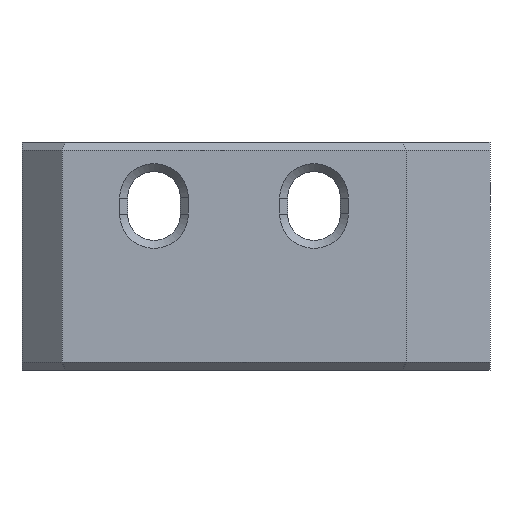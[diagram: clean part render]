
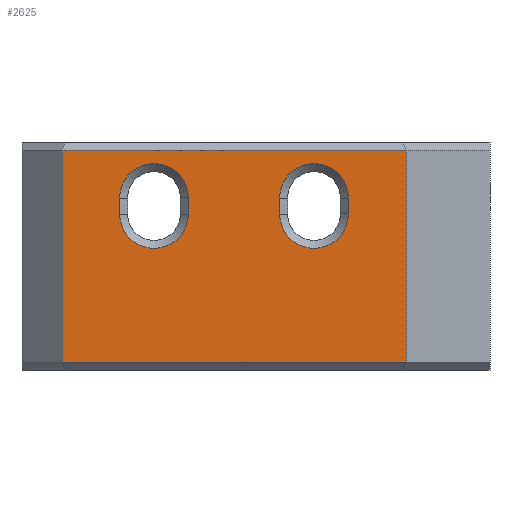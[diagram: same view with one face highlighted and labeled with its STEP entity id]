
A CAD part, front view. The second image highlights one B-rep face of the part: STEP entity #2625.
In plain terms, the highlighted planar face has unit normal (0, -1, 0).
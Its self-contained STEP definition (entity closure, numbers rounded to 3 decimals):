
#1994=CARTESIAN_POINT('Vertex',(-14.3,-10.,6.)) ;
#2001=CARTESIAN_POINT('Vertex',(-14.3,-10.,8.)) ;
#2004=CARTESIAN_POINT('Line Origine',(-14.3,-10.,0.75)) ;
#2025=CARTESIAN_POINT('Vertex',(-5.7,-10.,8.)) ;
#2028=CARTESIAN_POINT('Axis2P3D Location',(-10.,-10.,8.)) ;
#2049=CARTESIAN_POINT('Vertex',(-5.7,-10.,6.)) ;
#2052=CARTESIAN_POINT('Line Origine',(-5.7,-10.,-5.6)) ;
#2069=CARTESIAN_POINT('Axis2P3D Location',(-10.,-10.,6.)) ;
#2186=CARTESIAN_POINT('Vertex',(5.7,-10.,8.)) ;
#2189=CARTESIAN_POINT('Line Origine',(5.7,-10.,0.75)) ;
#2193=CARTESIAN_POINT('Vertex',(5.7,-10.,6.)) ;
#2213=CARTESIAN_POINT('Axis2P3D Location',(10.,-10.,6.)) ;
#2217=CARTESIAN_POINT('Vertex',(14.3,-10.,6.)) ;
#2237=CARTESIAN_POINT('Line Origine',(14.3,-10.,0.75)) ;
#2241=CARTESIAN_POINT('Vertex',(14.3,-10.,8.)) ;
#2261=CARTESIAN_POINT('Axis2P3D Location',(10.,-10.,8.)) ;
#2343=CARTESIAN_POINT('Vertex',(21.5,-10.,14.)) ;
#2369=CARTESIAN_POINT('Line Origine',(2.75,-10.,14.)) ;
#2373=CARTESIAN_POINT('Vertex',(-21.5,-10.,14.)) ;
#2522=CARTESIAN_POINT('Vertex',(21.5,-10.,-12.5)) ;
#2525=CARTESIAN_POINT('Line Origine',(21.5,-10.,0.75)) ;
#2542=CARTESIAN_POINT('Line Origine',(-21.5,-10.,0.75)) ;
#2546=CARTESIAN_POINT('Vertex',(-21.5,-10.,-12.5)) ;
#2597=CARTESIAN_POINT('Axis2P3D Location',(0.,-10.,15.)) ;
#2602=CARTESIAN_POINT('Line Origine',(0.,-10.,-12.5)) ;
#2005=DIRECTION('Vector Direction',(0.,0.,-1.)) ;
#2029=DIRECTION('Axis2P3D Direction',(0.,-1.,0.)) ;
#2053=DIRECTION('Vector Direction',(0.,0.,1.)) ;
#2070=DIRECTION('Axis2P3D Direction',(0.,-1.,0.)) ;
#2190=DIRECTION('Vector Direction',(0.,0.,1.)) ;
#2214=DIRECTION('Axis2P3D Direction',(0.,-1.,0.)) ;
#2238=DIRECTION('Vector Direction',(0.,0.,-1.)) ;
#2262=DIRECTION('Axis2P3D Direction',(0.,-1.,0.)) ;
#2370=DIRECTION('Vector Direction',(1.,0.,0.)) ;
#2526=DIRECTION('Vector Direction',(0.,0.,-1.)) ;
#2543=DIRECTION('Vector Direction',(0.,0.,-1.)) ;
#2598=DIRECTION('Axis2P3D Direction',(0.,-1.,0.)) ;
#2599=DIRECTION('Axis2P3D XDirection',(0.,0.,-1.)) ;
#2603=DIRECTION('Vector Direction',(-1.,0.,0.)) ;
#2030=AXIS2_PLACEMENT_3D('Circle Axis2P3D',#2028,#2029,$) ;
#2071=AXIS2_PLACEMENT_3D('Circle Axis2P3D',#2069,#2070,$) ;
#2215=AXIS2_PLACEMENT_3D('Circle Axis2P3D',#2213,#2214,$) ;
#2263=AXIS2_PLACEMENT_3D('Circle Axis2P3D',#2261,#2262,$) ;
#2600=AXIS2_PLACEMENT_3D('Plane Axis2P3D',#2597,#2598,#2599) ;
#2608=ORIENTED_EDGE('',*,*,#2529,.F.) ;
#2609=ORIENTED_EDGE('',*,*,#2375,.T.) ;
#2610=ORIENTED_EDGE('',*,*,#2548,.T.) ;
#2611=ORIENTED_EDGE('',*,*,#2606,.T.) ;
#2614=ORIENTED_EDGE('',*,*,#2265,.F.) ;
#2615=ORIENTED_EDGE('',*,*,#2243,.F.) ;
#2616=ORIENTED_EDGE('',*,*,#2219,.F.) ;
#2617=ORIENTED_EDGE('',*,*,#2195,.F.) ;
#2620=ORIENTED_EDGE('',*,*,#2008,.T.) ;
#2621=ORIENTED_EDGE('',*,*,#2032,.T.) ;
#2622=ORIENTED_EDGE('',*,*,#2056,.T.) ;
#2623=ORIENTED_EDGE('',*,*,#2073,.T.) ;
#2618=FACE_BOUND('',#2613,.T.) ;
#2624=FACE_BOUND('',#2619,.T.) ;
#2006=VECTOR('Line Direction',#2005,1.) ;
#2054=VECTOR('Line Direction',#2053,1.) ;
#2191=VECTOR('Line Direction',#2190,1.) ;
#2239=VECTOR('Line Direction',#2238,1.) ;
#2371=VECTOR('Line Direction',#2370,1.) ;
#2527=VECTOR('Line Direction',#2526,1.) ;
#2544=VECTOR('Line Direction',#2543,1.) ;
#2604=VECTOR('Line Direction',#2603,1.) ;
#2625=ADVANCED_FACE('PartBody',(#2612,#2618,#2624),#2601,.T.) ;
#2031=CIRCLE('generated circle',#2030,4.3) ;
#2072=CIRCLE('generated circle',#2071,4.3) ;
#2216=CIRCLE('generated circle',#2215,4.3) ;
#2264=CIRCLE('generated circle',#2263,4.3) ;
#2008=EDGE_CURVE('',#1995,#2002,#2007,.F.) ;
#2032=EDGE_CURVE('',#2002,#2026,#2031,.F.) ;
#2056=EDGE_CURVE('',#2026,#2050,#2055,.F.) ;
#2073=EDGE_CURVE('',#2050,#1995,#2072,.F.) ;
#2195=EDGE_CURVE('',#2187,#2194,#2192,.F.) ;
#2219=EDGE_CURVE('',#2194,#2218,#2216,.T.) ;
#2243=EDGE_CURVE('',#2218,#2242,#2240,.F.) ;
#2265=EDGE_CURVE('',#2242,#2187,#2264,.T.) ;
#2375=EDGE_CURVE('',#2344,#2374,#2372,.F.) ;
#2529=EDGE_CURVE('',#2344,#2523,#2528,.T.) ;
#2548=EDGE_CURVE('',#2374,#2547,#2545,.T.) ;
#2606=EDGE_CURVE('',#2547,#2523,#2605,.F.) ;
#2607=EDGE_LOOP('',(#2608,#2609,#2610,#2611)) ;
#2613=EDGE_LOOP('',(#2614,#2615,#2616,#2617)) ;
#2619=EDGE_LOOP('',(#2620,#2621,#2622,#2623)) ;
#2612=FACE_OUTER_BOUND('',#2607,.T.) ;
#2007=LINE('Line',#2004,#2006) ;
#2055=LINE('Line',#2052,#2054) ;
#2192=LINE('Line',#2189,#2191) ;
#2240=LINE('Line',#2237,#2239) ;
#2372=LINE('Line',#2369,#2371) ;
#2528=LINE('Line',#2525,#2527) ;
#2545=LINE('Line',#2542,#2544) ;
#2605=LINE('Line',#2602,#2604) ;
#2601=PLANE('Plane',#2600) ;
#1995=VERTEX_POINT('',#1994) ;
#2002=VERTEX_POINT('',#2001) ;
#2026=VERTEX_POINT('',#2025) ;
#2050=VERTEX_POINT('',#2049) ;
#2187=VERTEX_POINT('',#2186) ;
#2194=VERTEX_POINT('',#2193) ;
#2218=VERTEX_POINT('',#2217) ;
#2242=VERTEX_POINT('',#2241) ;
#2344=VERTEX_POINT('',#2343) ;
#2374=VERTEX_POINT('',#2373) ;
#2523=VERTEX_POINT('',#2522) ;
#2547=VERTEX_POINT('',#2546) ;
